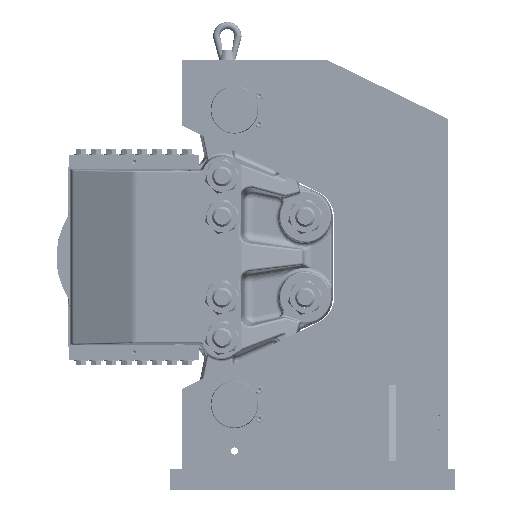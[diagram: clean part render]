
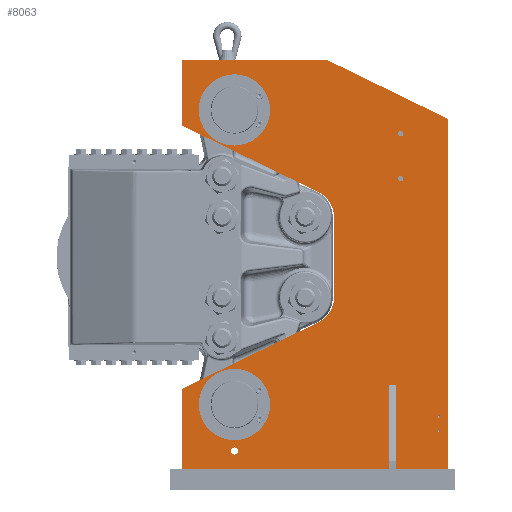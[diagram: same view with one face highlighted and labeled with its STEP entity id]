
A CAD part, left-side view. The second image highlights one B-rep face of the part: STEP entity #8063.
In plain terms, the highlighted planar face has unit normal (-1, 0, 0) as drawn and (1, 0, 0) by its records, which use the part's own axes.
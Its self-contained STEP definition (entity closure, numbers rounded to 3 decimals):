
#3135=DIRECTION('',(0.,1.,0.));
#3136=VECTOR('',#3135,110.);
#3137=CARTESIAN_POINT('',(150.,475.,45.));
#3138=LINE('',#3137,#3136);
#3233=DIRECTION('',(0.,1.,0.));
#3234=VECTOR('',#3233,435.);
#3235=CARTESIAN_POINT('',(150.,25.,45.));
#3236=LINE('',#3235,#3234);
#4225=DIRECTION('',(0.,0.,1.));
#4226=VECTOR('',#4225,175.);
#4227=CARTESIAN_POINT('',(150.,460.,45.));
#4228=LINE('',#4227,#4226);
#4253=DIRECTION('',(0.,0.,1.));
#4254=VECTOR('',#4253,175.);
#4255=CARTESIAN_POINT('',(150.,475.,45.));
#4256=LINE('',#4255,#4254);
#4260=DIRECTION('',(0.,-1.,0.));
#4261=VECTOR('',#4260,15.);
#4262=CARTESIAN_POINT('',(150.,475.,220.));
#4263=LINE('',#4262,#4261);
#4267=DIRECTION('',(0.,0.899,0.438));
#4268=VECTOR('',#4267,318.54);
#4269=CARTESIAN_POINT('',(150.,25.,213.132));
#4270=LINE('',#4269,#4268);
#4274=CARTESIAN_POINT('',(150.,285.,406.699));
#4275=DIRECTION('',(1.,0.,0.));
#4276=DIRECTION('',(0.,0.438,-0.899));
#4277=AXIS2_PLACEMENT_3D('',#4274,#4275,#4276);
#4282=CARTESIAN_POINT('',(150.,285.,573.301));
#4283=DIRECTION('',(1.,0.,0.));
#4284=DIRECTION('',(0.,1.,0.));
#4285=AXIS2_PLACEMENT_3D('',#4282,#4283,#4284);
#4290=DIRECTION('',(0.,-0.899,0.438));
#4291=VECTOR('',#4290,318.54);
#4292=CARTESIAN_POINT('',(150.,311.302,627.229));
#4293=LINE('',#4292,#4291);
#4297=DIRECTION('',(0.,1.,0.));
#4298=VECTOR('',#4297,305.329);
#4299=CARTESIAN_POINT('',(150.,25.,905.));
#4300=LINE('',#4299,#4298);
#4304=DIRECTION('',(0.,0.899,-0.438));
#4305=VECTOR('',#4304,283.347);
#4306=CARTESIAN_POINT('',(150.,330.329,905.));
#4307=LINE('',#4306,#4305);
#4311=DIRECTION('',(0.,0.,-1.));
#4312=VECTOR('',#4311,735.789);
#4313=CARTESIAN_POINT('',(150.,585.,780.789));
#4314=LINE('',#4313,#4312);
#4318=CARTESIAN_POINT('',(150.,565.,155.));
#4319=DIRECTION('',(1.,0.,0.));
#4320=DIRECTION('',(0.,0.,-1.));
#4321=AXIS2_PLACEMENT_3D('',#4318,#4319,#4320);
#4326=CARTESIAN_POINT('',(150.,565.,155.));
#4327=DIRECTION('',(1.,0.,0.));
#4328=DIRECTION('',(0.,0.,1.));
#4329=AXIS2_PLACEMENT_3D('',#4326,#4327,#4328);
#4334=CARTESIAN_POINT('',(150.,565.,125.));
#4335=DIRECTION('',(1.,0.,0.));
#4336=DIRECTION('',(0.,0.,-1.));
#4337=AXIS2_PLACEMENT_3D('',#4334,#4335,#4336);
#4342=CARTESIAN_POINT('',(150.,565.,125.));
#4343=DIRECTION('',(1.,0.,0.));
#4344=DIRECTION('',(0.,0.,1.));
#4345=AXIS2_PLACEMENT_3D('',#4342,#4343,#4344);
#4350=CARTESIAN_POINT('',(150.,485.,655.));
#4351=DIRECTION('',(1.,0.,0.));
#4352=DIRECTION('',(0.,0.,-1.));
#4353=AXIS2_PLACEMENT_3D('',#4350,#4351,#4352);
#4358=CARTESIAN_POINT('',(150.,485.,655.));
#4359=DIRECTION('',(1.,0.,0.));
#4360=DIRECTION('',(0.,0.,1.));
#4361=AXIS2_PLACEMENT_3D('',#4358,#4359,#4360);
#4366=CARTESIAN_POINT('',(150.,485.,750.));
#4367=DIRECTION('',(1.,0.,0.));
#4368=DIRECTION('',(0.,0.,-1.));
#4369=AXIS2_PLACEMENT_3D('',#4366,#4367,#4368);
#4374=CARTESIAN_POINT('',(150.,485.,750.));
#4375=DIRECTION('',(1.,0.,0.));
#4376=DIRECTION('',(0.,0.,1.));
#4377=AXIS2_PLACEMENT_3D('',#4374,#4375,#4376);
#4382=CARTESIAN_POINT('',(150.,135.,82.));
#4383=DIRECTION('',(1.,0.,0.));
#4384=DIRECTION('',(0.,0.,-1.));
#4385=AXIS2_PLACEMENT_3D('',#4382,#4383,#4384);
#4390=CARTESIAN_POINT('',(150.,135.,82.));
#4391=DIRECTION('',(1.,0.,0.));
#4392=DIRECTION('',(0.,0.,1.));
#4393=AXIS2_PLACEMENT_3D('',#4390,#4391,#4392);
#4398=CARTESIAN_POINT('',(150.,135.,180.));
#4399=DIRECTION('',(1.,0.,0.));
#4400=DIRECTION('',(0.,0.,-1.));
#4401=AXIS2_PLACEMENT_3D('',#4398,#4399,#4400);
#4406=CARTESIAN_POINT('',(150.,135.,180.));
#4407=DIRECTION('',(1.,0.,0.));
#4408=DIRECTION('',(0.,0.,1.));
#4409=AXIS2_PLACEMENT_3D('',#4406,#4407,#4408);
#4414=CARTESIAN_POINT('',(150.,135.,800.));
#4415=DIRECTION('',(1.,0.,0.));
#4416=DIRECTION('',(0.,0.,-1.));
#4417=AXIS2_PLACEMENT_3D('',#4414,#4415,#4416);
#4422=CARTESIAN_POINT('',(150.,135.,800.));
#4423=DIRECTION('',(1.,0.,0.));
#4424=DIRECTION('',(0.,0.,1.));
#4425=AXIS2_PLACEMENT_3D('',#4422,#4423,#4424);
#4430=DIRECTION('',(0.,0.,-1.));
#4431=VECTOR('',#4430,168.132);
#4432=CARTESIAN_POINT('',(150.,25.,213.132));
#4433=LINE('',#4432,#4431);
#5774=DIRECTION('',(0.,0.,-1.));
#5775=VECTOR('',#5774,138.132);
#5776=CARTESIAN_POINT('',(150.,25.,905.));
#5777=LINE('',#5776,#5775);
#5809=DIRECTION('',(0.,0.,-1.));
#5810=VECTOR('',#5809,166.602);
#5811=CARTESIAN_POINT('',(150.,345.,573.301));
#5812=LINE('',#5811,#5810);
#6582=CARTESIAN_POINT('',(150.,475.,45.));
#6584=VERTEX_POINT('',#6582);
#6585=CARTESIAN_POINT('',(150.,585.,45.));
#6586=VERTEX_POINT('',#6585);
#6603=CARTESIAN_POINT('',(150.,25.,45.));
#6604=VERTEX_POINT('',#6603);
#6605=CARTESIAN_POINT('',(150.,460.,45.));
#6606=VERTEX_POINT('',#6605);
#6697=CARTESIAN_POINT('',(150.,475.,220.));
#6699=VERTEX_POINT('',#6697);
#6703=CARTESIAN_POINT('',(150.,460.,220.));
#6705=VERTEX_POINT('',#6703);
#6709=CARTESIAN_POINT('',(150.,25.,213.132));
#6710=VERTEX_POINT('',#6709);
#6711=CARTESIAN_POINT('',(150.,311.302,352.771));
#6712=VERTEX_POINT('',#6711);
#6713=CARTESIAN_POINT('',(150.,345.,406.699));
#6714=VERTEX_POINT('',#6713);
#6715=CARTESIAN_POINT('',(150.,345.,573.301));
#6716=VERTEX_POINT('',#6715);
#6717=CARTESIAN_POINT('',(150.,311.302,627.229));
#6718=VERTEX_POINT('',#6717);
#6719=CARTESIAN_POINT('',(150.,25.,766.868));
#6720=VERTEX_POINT('',#6719);
#6721=CARTESIAN_POINT('',(150.,25.,905.));
#6722=VERTEX_POINT('',#6721);
#6723=CARTESIAN_POINT('',(150.,330.329,905.));
#6724=VERTEX_POINT('',#6723);
#6725=CARTESIAN_POINT('',(150.,585.,780.789));
#6726=VERTEX_POINT('',#6725);
#6727=CARTESIAN_POINT('',(150.,565.,152.5));
#6728=CARTESIAN_POINT('',(150.,565.,157.5));
#6729=VERTEX_POINT('',#6727);
#6730=VERTEX_POINT('',#6728);
#6731=CARTESIAN_POINT('',(150.,565.,122.5));
#6732=CARTESIAN_POINT('',(150.,565.,127.5));
#6733=VERTEX_POINT('',#6731);
#6734=VERTEX_POINT('',#6732);
#6735=CARTESIAN_POINT('',(150.,485.,649.5));
#6736=CARTESIAN_POINT('',(150.,485.,660.5));
#6737=VERTEX_POINT('',#6735);
#6738=VERTEX_POINT('',#6736);
#6739=CARTESIAN_POINT('',(150.,485.,744.5));
#6740=CARTESIAN_POINT('',(150.,485.,755.5));
#6741=VERTEX_POINT('',#6739);
#6742=VERTEX_POINT('',#6740);
#6743=CARTESIAN_POINT('',(150.,135.,74.5));
#6744=CARTESIAN_POINT('',(150.,135.,89.5));
#6745=VERTEX_POINT('',#6743);
#6746=VERTEX_POINT('',#6744);
#6747=CARTESIAN_POINT('',(150.,135.,105.));
#6748=CARTESIAN_POINT('',(150.,135.,255.));
#6749=VERTEX_POINT('',#6747);
#6750=VERTEX_POINT('',#6748);
#6751=CARTESIAN_POINT('',(150.,135.,725.));
#6752=CARTESIAN_POINT('',(150.,135.,875.));
#6753=VERTEX_POINT('',#6751);
#6754=VERTEX_POINT('',#6752);
#7989=CARTESIAN_POINT('',(150.,25.,905.));
#7990=DIRECTION('',(-1.,0.,0.));
#7991=DIRECTION('',(0.,0.,1.));
#7992=AXIS2_PLACEMENT_3D('',#7989,#7990,#7991);
#7993=PLANE('',#7992);
#7994=ORIENTED_EDGE('',*,*,#7923,.T.);
#7995=ORIENTED_EDGE('',*,*,#7940,.T.);
#7996=ORIENTED_EDGE('',*,*,#7959,.F.);
#7997=ORIENTED_EDGE('',*,*,#7371,.F.);
#7999=ORIENTED_EDGE('',*,*,#7998,.F.);
#8001=ORIENTED_EDGE('',*,*,#8000,.T.);
#8003=ORIENTED_EDGE('',*,*,#8002,.T.);
#8005=ORIENTED_EDGE('',*,*,#8004,.F.);
#8007=ORIENTED_EDGE('',*,*,#8006,.T.);
#8009=ORIENTED_EDGE('',*,*,#8008,.T.);
#8011=ORIENTED_EDGE('',*,*,#8010,.F.);
#8013=ORIENTED_EDGE('',*,*,#8012,.T.);
#8015=ORIENTED_EDGE('',*,*,#8014,.T.);
#8017=ORIENTED_EDGE('',*,*,#8016,.T.);
#8018=ORIENTED_EDGE('',*,*,#7343,.F.);
#8019=EDGE_LOOP('',(#7994,#7995,#7996,#7997,#7999,#8001,#8003,#8005,#8007,#8009,
#8011,#8013,#8015,#8017,#8018));
#8020=FACE_OUTER_BOUND('',#8019,.F.);
#8022=ORIENTED_EDGE('',*,*,#8021,.T.);
#8024=ORIENTED_EDGE('',*,*,#8023,.T.);
#8025=EDGE_LOOP('',(#8022,#8024));
#8026=FACE_BOUND('',#8025,.F.);
#8028=ORIENTED_EDGE('',*,*,#8027,.T.);
#8030=ORIENTED_EDGE('',*,*,#8029,.T.);
#8031=EDGE_LOOP('',(#8028,#8030));
#8032=FACE_BOUND('',#8031,.F.);
#8034=ORIENTED_EDGE('',*,*,#8033,.T.);
#8036=ORIENTED_EDGE('',*,*,#8035,.T.);
#8037=EDGE_LOOP('',(#8034,#8036));
#8038=FACE_BOUND('',#8037,.F.);
#8040=ORIENTED_EDGE('',*,*,#8039,.T.);
#8042=ORIENTED_EDGE('',*,*,#8041,.T.);
#8043=EDGE_LOOP('',(#8040,#8042));
#8044=FACE_BOUND('',#8043,.F.);
#8046=ORIENTED_EDGE('',*,*,#8045,.T.);
#8048=ORIENTED_EDGE('',*,*,#8047,.T.);
#8049=EDGE_LOOP('',(#8046,#8048));
#8050=FACE_BOUND('',#8049,.F.);
#8052=ORIENTED_EDGE('',*,*,#8051,.T.);
#8054=ORIENTED_EDGE('',*,*,#8053,.T.);
#8055=EDGE_LOOP('',(#8052,#8054));
#8056=FACE_BOUND('',#8055,.F.);
#8058=ORIENTED_EDGE('',*,*,#8057,.T.);
#8060=ORIENTED_EDGE('',*,*,#8059,.T.);
#8061=EDGE_LOOP('',(#8058,#8060));
#8062=FACE_BOUND('',#8061,.F.);
#8063=ADVANCED_FACE('',(#8020,#8026,#8032,#8038,#8044,#8050,#8056,#8062),#7993,
.F.);
#4278=CIRCLE('',#4277,60.);
#4286=CIRCLE('',#4285,60.);
#4322=CIRCLE('',#4321,2.5);
#4330=CIRCLE('',#4329,2.5);
#4338=CIRCLE('',#4337,2.5);
#4346=CIRCLE('',#4345,2.5);
#4354=CIRCLE('',#4353,5.5);
#4362=CIRCLE('',#4361,5.5);
#4370=CIRCLE('',#4369,5.5);
#4378=CIRCLE('',#4377,5.5);
#4386=CIRCLE('',#4385,7.5);
#4394=CIRCLE('',#4393,7.5);
#4402=CIRCLE('',#4401,75.);
#4410=CIRCLE('',#4409,75.);
#4418=CIRCLE('',#4417,75.);
#4426=CIRCLE('',#4425,75.);
#7343=EDGE_CURVE('',#6584,#6586,#3138,.T.);
#7371=EDGE_CURVE('',#6604,#6606,#3236,.T.);
#7923=EDGE_CURVE('',#6584,#6699,#4256,.T.);
#7940=EDGE_CURVE('',#6699,#6705,#4263,.T.);
#7959=EDGE_CURVE('',#6606,#6705,#4228,.T.);
#7998=EDGE_CURVE('',#6710,#6604,#4433,.T.);
#8000=EDGE_CURVE('',#6710,#6712,#4270,.T.);
#8002=EDGE_CURVE('',#6712,#6714,#4278,.T.);
#8004=EDGE_CURVE('',#6716,#6714,#5812,.T.);
#8006=EDGE_CURVE('',#6716,#6718,#4286,.T.);
#8008=EDGE_CURVE('',#6718,#6720,#4293,.T.);
#8010=EDGE_CURVE('',#6722,#6720,#5777,.T.);
#8012=EDGE_CURVE('',#6722,#6724,#4300,.T.);
#8014=EDGE_CURVE('',#6724,#6726,#4307,.T.);
#8016=EDGE_CURVE('',#6726,#6586,#4314,.T.);
#8021=EDGE_CURVE('',#6729,#6730,#4322,.T.);
#8023=EDGE_CURVE('',#6730,#6729,#4330,.T.);
#8027=EDGE_CURVE('',#6733,#6734,#4338,.T.);
#8029=EDGE_CURVE('',#6734,#6733,#4346,.T.);
#8033=EDGE_CURVE('',#6737,#6738,#4354,.T.);
#8035=EDGE_CURVE('',#6738,#6737,#4362,.T.);
#8039=EDGE_CURVE('',#6741,#6742,#4370,.T.);
#8041=EDGE_CURVE('',#6742,#6741,#4378,.T.);
#8045=EDGE_CURVE('',#6745,#6746,#4386,.T.);
#8047=EDGE_CURVE('',#6746,#6745,#4394,.T.);
#8051=EDGE_CURVE('',#6749,#6750,#4402,.T.);
#8053=EDGE_CURVE('',#6750,#6749,#4410,.T.);
#8057=EDGE_CURVE('',#6753,#6754,#4418,.T.);
#8059=EDGE_CURVE('',#6754,#6753,#4426,.T.);
